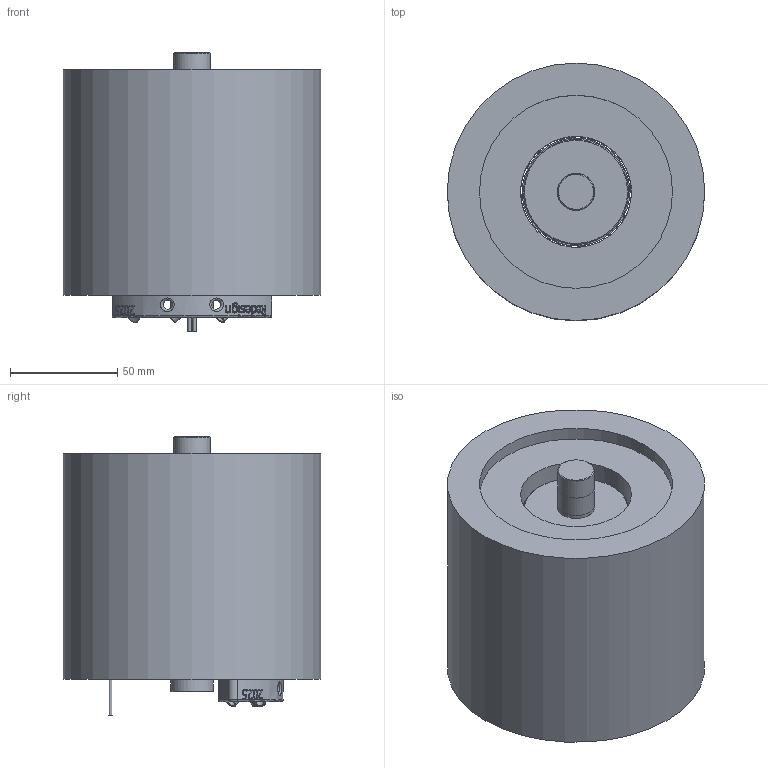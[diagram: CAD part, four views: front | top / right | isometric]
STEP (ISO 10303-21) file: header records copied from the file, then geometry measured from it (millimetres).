
FILE_DESCRIPTION(/* description */ ('Variante A vereinfacht'),/* implementation_level */ '2;1');
FILE_NAME(/* name */ '154528.stp',/* time_stamp */ '2025-02-13T14:08:22+01:00',/* author */ ('Niklas.Fischer'),/* organization */ (''),/* preprocessor_version */ 'ST-DEVELOPER v20',/* originating_system */ 'Autodesk Inventor 2024',/* authorisation */ '');
FILE_SCHEMA (('AUTOMOTIVE_DESIGN { 1 0 10303 214 3 1 1 }'));
Length unit declared in the file: millimetre
Products named in the file (1): 154528
Bounding box: 120 x 120 x 129.9 mm (x, y, z)
Volume: 1099750 mm3; surface area: 152692.7 mm2
Topology: 2 solids, 4 shells, 1152 faces, 3492 edges, 2212 vertices
Faces by surface type: plane 564, bspline 269, cylinder 256, cone 41, torus 22
Full cylindrical faces by diameter (mm): 1.55 x2, 4 x6, 4.3 x5, 4.4 x3, 4.5 x3, 7 x3, 16.95 x1, 17 x2, 17.05 x2, 19.95 x1, 20 x1, 20.05 x2, 21 x1, 49 x2, 50.2 x1, 51.7 x1, 85.9 x1, 86 x2, 88 x1, 90 x1, 120 x1
Entity records: 48032 total; most frequent: CARTESIAN_POINT 16935, ORIENTED_EDGE 6970, DIRECTION 5477, EDGE_CURVE 3485, VERTEX_POINT 2215, AXIS2_PLACEMENT_3D 1889, LINE 1699, VECTOR 1699
